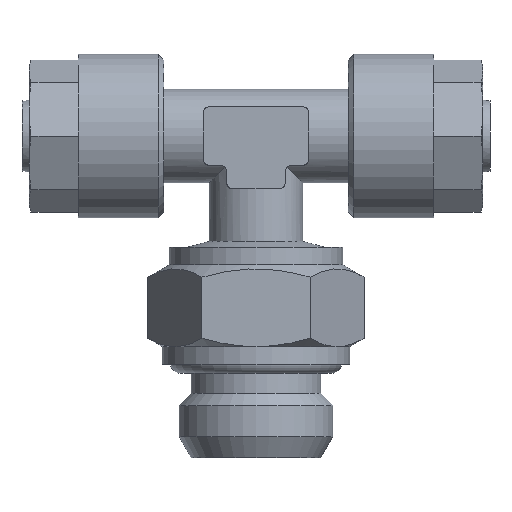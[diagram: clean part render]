
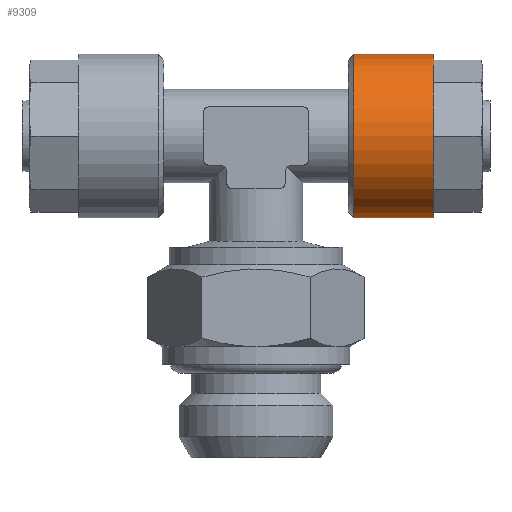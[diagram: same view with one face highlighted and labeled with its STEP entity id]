
A CAD part, front view. The second image highlights one B-rep face of the part: STEP entity #9309.
In plain terms, the highlighted cylindrical face has radius 7 mm (diameter 14 mm), a full revolution.
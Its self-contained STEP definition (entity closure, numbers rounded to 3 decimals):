
#3550=ORIENTED_EDGE('',*,*,#4229,.F.);
#3551=ORIENTED_EDGE('',*,*,#4228,.T.);
#3820=CIRCLE('',#9055,7.);
#3821=CIRCLE('',#9057,7.);
#3985=VERTEX_POINT('',#8641);
#3986=VERTEX_POINT('',#8644);
#4228=EDGE_CURVE('',#3985,#3985,#3820,.T.);
#4229=EDGE_CURVE('',#3986,#3986,#3821,.T.);
#4461=EDGE_LOOP('',(#3550));
#4462=EDGE_LOOP('',(#3551));
#4671=FACE_BOUND('',#4461,.T.);
#4672=FACE_BOUND('',#4462,.T.);
#5183=DIRECTION('',(0.,1.,0.));
#5184=DIRECTION('',(0.,0.,7.));
#5185=DIRECTION('',(0.,1.,0.));
#5186=DIRECTION('',(1.,0.,0.));
#5187=DIRECTION('',(0.,1.,0.));
#5188=DIRECTION('',(0.,0.,-7.));
#8641=CARTESIAN_POINT('',(26.989,15.095,7.));
#8642=CARTESIAN_POINT('',(26.989,15.095,0.));
#8643=CARTESIAN_POINT('',(26.989,15.095,0.));
#8644=CARTESIAN_POINT('',(26.989,21.895,-7.));
#8645=CARTESIAN_POINT('',(26.989,21.895,0.));
#9055=AXIS2_PLACEMENT_3D('',#8642,#5183,#5184);
#9056=AXIS2_PLACEMENT_3D('',#8643,#5185,#5186);
#9057=AXIS2_PLACEMENT_3D('',#8645,#5187,#5188);
#9214=CYLINDRICAL_SURFACE('',#9056,7.);
#9309=ADVANCED_FACE('',(#4671,#4672),#9214,.T.);
